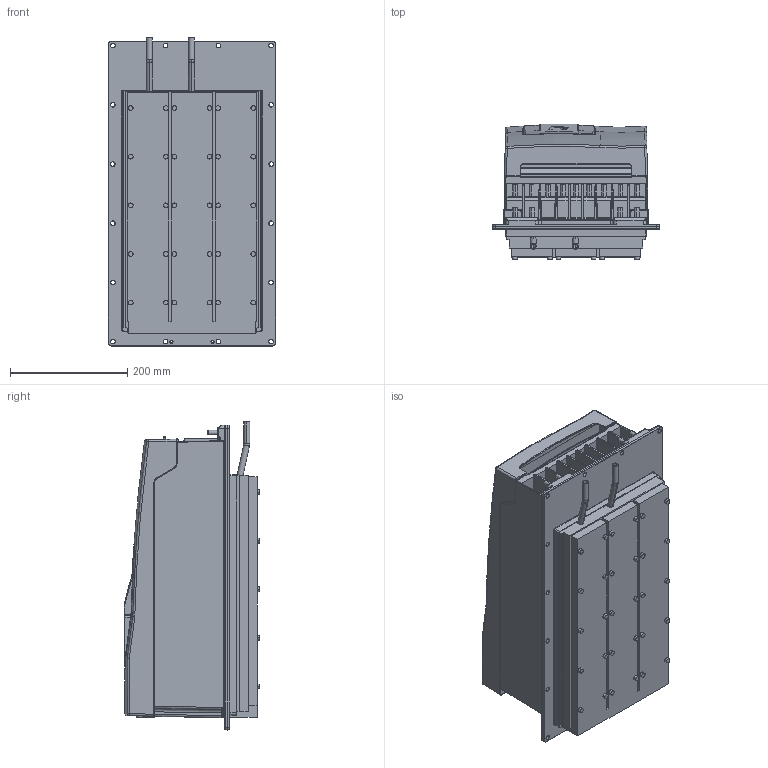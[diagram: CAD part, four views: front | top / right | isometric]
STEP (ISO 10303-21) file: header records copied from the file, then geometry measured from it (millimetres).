
FILE_DESCRIPTION (( 'STEP AP214' ), '1' );
FILE_NAME ('10070744_000.STEP', '2022-02-16T10:08:49', ( '' ), ( '' ), 'SwSTEP 2.0', 'SolidWorks 2019', '' );
FILE_SCHEMA (( 'AUTOMOTIVE_DESIGN' ));
Length unit declared in the file: millimetre
Products named in the file (11): Kundenmodell^10061793_000; Kundenmodell^10035735_000; 10070744_000; Kundenmodell^10070738_000; Kundenmodell^10059764_000; Kundenmodell^10027052_000; 10027052_000_Geh„usebaugruppe F6-6 (Kundenmodell); 10070738_000_Leistungsteil F6-6  TW1 (Kundenmodell); 10035735_000_Kundenmodell; 10061793_000_Deckelbaugruppe F6-6 (Kundenmodell); 10059764_000_Blindabdeckung (Kundenmodell)
Assembly tree (10 placements, depth 4):
  10070744_000
    10070738_000_Leistungsteil F6-6  TW1 (Kundenmodell)
      Kundenmodell^10070738_000
    10027052_000_Geh„usebaugruppe F6-6 (Kundenmodell)
      10061793_000_Deckelbaugruppe F6-6 (Kundenmodell)
        Kundenmodell^10061793_000
      Kundenmodell^10027052_000
    10035735_000_Kundenmodell
      10059764_000_Blindabdeckung (Kundenmodell)
        Kundenmodell^10059764_000
      Kundenmodell^10035735_000
Bounding box: 285 x 231.4 x 525.5 mm (x, y, z)
Volume: 22381106.9 mm3; surface area: 1310947.2 mm2
Topology: 12 solids, 20 shells, 3016 faces, 7469 edges, 4442 vertices
Faces by surface type: cylinder 1103, plane 942, bspline 610, torus 180, sphere 111, cone 70
Entity records: 101665 total; most frequent: CARTESIAN_POINT 35294, ORIENTED_EDGE 14622, DIRECTION 12929, EDGE_CURVE 7311, AXIS2_PLACEMENT_3D 4763, VERTEX_POINT 4440, LINE 3403, VECTOR 3403
